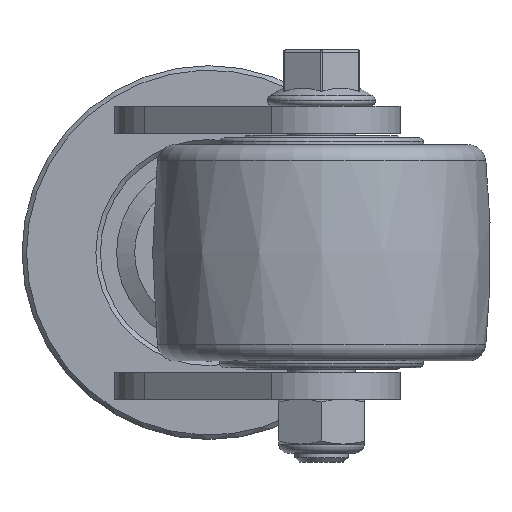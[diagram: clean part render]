
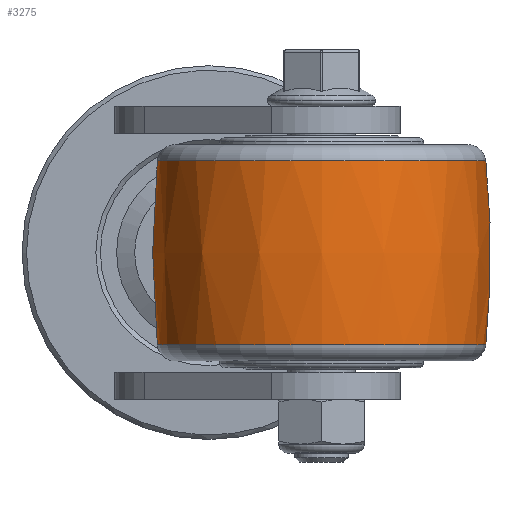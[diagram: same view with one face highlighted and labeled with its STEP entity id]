
A CAD part, front view. The second image highlights one B-rep face of the part: STEP entity #3275.
In plain terms, the highlighted free-form (B-spline) face has degree [2, 2] with [3, 9] control points.
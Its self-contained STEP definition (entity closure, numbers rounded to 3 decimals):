
#107=(
BOUNDED_SURFACE()
B_SPLINE_SURFACE(2,2,((#7389,#7390,#7391,#7392,#7393,#7394,#7395,#7396,
#7397),(#7398,#7399,#7400,#7401,#7402,#7403,#7404,#7405,#7406),(#7407,#7408,
#7409,#7410,#7411,#7412,#7413,#7414,#7415)),.UNSPECIFIED.,.F.,.T.,.F.)
B_SPLINE_SURFACE_WITH_KNOTS((3,3),(3,2,2,2,3),(-0.102,0.102),
(-3.142,-1.571,0.,1.571,3.142),
 .UNSPECIFIED.)
GEOMETRIC_REPRESENTATION_ITEM()
RATIONAL_B_SPLINE_SURFACE(((1.,0.707,1.,0.707,1.,
0.707,1.,0.707,1.),(0.995,0.703,
0.995,0.703,0.995,0.703,
0.995,0.703,0.995),(1.,0.707,
1.,0.707,1.,0.707,1.,0.707,1.)))
REPRESENTATION_ITEM('')
SURFACE()
);
#479=FACE_OUTER_BOUND('',#720,.T.);
#720=EDGE_LOOP('',(#2762,#2763,#2764,#2765));
#960=CIRCLE('',#3817,36.456);
#962=CIRCLE('',#3819,200.);
#963=CIRCLE('',#3820,36.456);
#1600=VERTEX_POINT('',#7386);
#1601=VERTEX_POINT('',#7416);
#2000=EDGE_CURVE('',#1600,#1600,#960,.T.);
#2002=EDGE_CURVE('',#1600,#1601,#962,.T.);
#2003=EDGE_CURVE('',#1601,#1601,#963,.T.);
#2762=ORIENTED_EDGE('',*,*,#2000,.T.);
#2763=ORIENTED_EDGE('',*,*,#2002,.T.);
#2764=ORIENTED_EDGE('',*,*,#2003,.F.);
#2765=ORIENTED_EDGE('',*,*,#2002,.F.);
#3275=ADVANCED_FACE('',(#479),#107,.F.);
#3817=AXIS2_PLACEMENT_3D('',#7387,#4640,#4641);
#3819=AXIS2_PLACEMENT_3D('',#7417,#4644,#4645);
#3820=AXIS2_PLACEMENT_3D('',#7418,#4646,#4647);
#4640=DIRECTION('center_axis',(0.,0.,-1.));
#4641=DIRECTION('ref_axis',(1.,0.,0.));
#4644=DIRECTION('center_axis',(0.,1.,0.));
#4645=DIRECTION('ref_axis',(1.,0.,0.));
#4646=DIRECTION('center_axis',(0.,0.,-1.));
#4647=DIRECTION('ref_axis',(1.,0.,0.));
#7386=CARTESIAN_POINT('',(36.456,0.,-89.592));
#7387=CARTESIAN_POINT('Origin',(0.,0.,-89.592));
#7389=CARTESIAN_POINT('Ctrl Pts',(36.456,0.,
-89.592));
#7390=CARTESIAN_POINT('Ctrl Pts',(36.456,-36.456,-89.592));
#7391=CARTESIAN_POINT('Ctrl Pts',(0.,-36.456,
-89.592));
#7392=CARTESIAN_POINT('Ctrl Pts',(-36.456,-36.456,-89.592));
#7393=CARTESIAN_POINT('Ctrl Pts',(-36.456,0.,
-89.592));
#7394=CARTESIAN_POINT('Ctrl Pts',(-36.456,36.456,-89.592));
#7395=CARTESIAN_POINT('Ctrl Pts',(0.,36.456,
-89.592));
#7396=CARTESIAN_POINT('Ctrl Pts',(36.456,36.456,-89.592));
#7397=CARTESIAN_POINT('Ctrl Pts',(36.456,0.,
-89.592));
#7398=CARTESIAN_POINT('Ctrl Pts',(38.549,0.,
-110.));
#7399=CARTESIAN_POINT('Ctrl Pts',(38.549,-38.549,-110.));
#7400=CARTESIAN_POINT('Ctrl Pts',(0.,-38.549,
-110.));
#7401=CARTESIAN_POINT('Ctrl Pts',(-38.549,-38.549,-110.));
#7402=CARTESIAN_POINT('Ctrl Pts',(-38.549,0.,
-110.));
#7403=CARTESIAN_POINT('Ctrl Pts',(-38.549,38.549,-110.));
#7404=CARTESIAN_POINT('Ctrl Pts',(0.,38.549,
-110.));
#7405=CARTESIAN_POINT('Ctrl Pts',(38.549,38.549,-110.));
#7406=CARTESIAN_POINT('Ctrl Pts',(38.549,0.,
-110.));
#7407=CARTESIAN_POINT('Ctrl Pts',(36.456,0.,
-130.408));
#7408=CARTESIAN_POINT('Ctrl Pts',(36.456,-36.456,-130.408));
#7409=CARTESIAN_POINT('Ctrl Pts',(0.,-36.456,
-130.408));
#7410=CARTESIAN_POINT('Ctrl Pts',(-36.456,-36.456,-130.408));
#7411=CARTESIAN_POINT('Ctrl Pts',(-36.456,0.,
-130.408));
#7412=CARTESIAN_POINT('Ctrl Pts',(-36.456,36.456,-130.408));
#7413=CARTESIAN_POINT('Ctrl Pts',(0.,36.456,
-130.408));
#7414=CARTESIAN_POINT('Ctrl Pts',(36.456,36.456,-130.408));
#7415=CARTESIAN_POINT('Ctrl Pts',(36.456,0.,
-130.408));
#7416=CARTESIAN_POINT('',(36.456,0.,-130.408));
#7417=CARTESIAN_POINT('Origin',(-162.5,0.,
-110.));
#7418=CARTESIAN_POINT('Origin',(0.,0.,-130.408));
